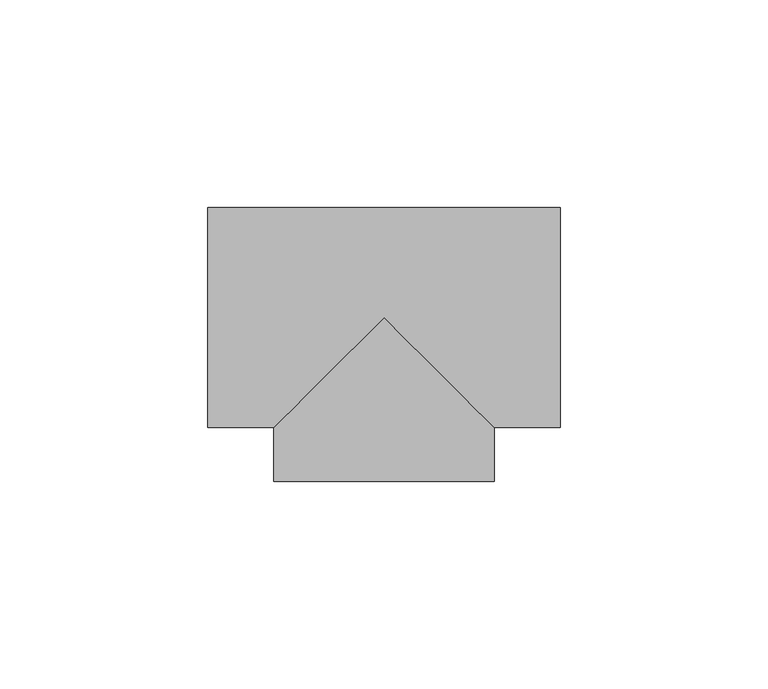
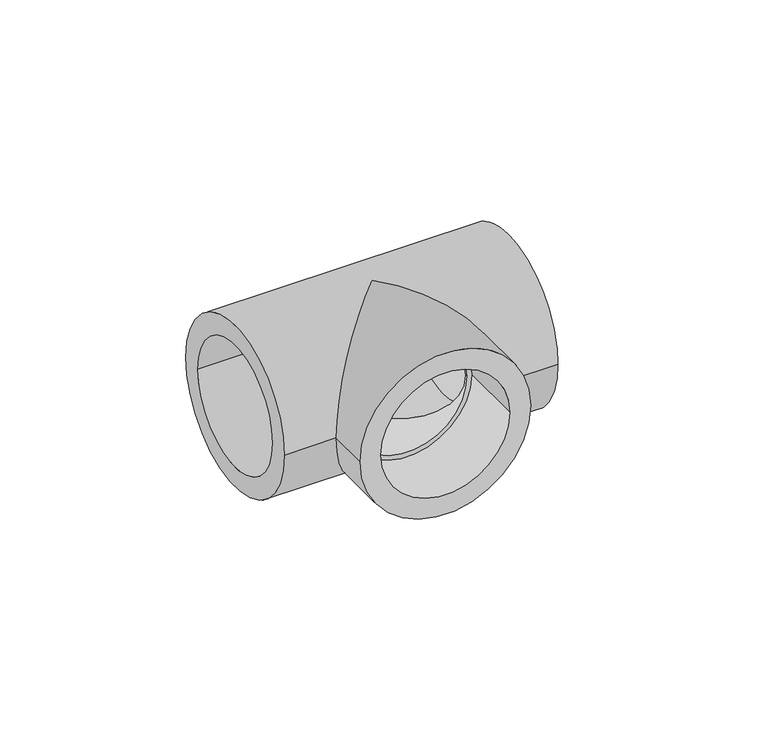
"""IFC4 building model written with IfcOpenShell, lengths in millimetres: pipe fitting geometry, 30_Тройник полипропиленовый : Белый цвет."""

from ifc_helpers import new_model, si_unit, frame, origin, place, context, project, spatial, polyline, circle_curve, ellipse_curve, source, transform, mapped, element, save
from ifc_brep_helpers import plane_surface, cylinder_surface, revolved_surface, advanced_brep


def pipe_fitting_64472920(model_context):
    return source(origin(), model_context, "Body", "AdvancedBrep", [
        advanced_brep(
        [(-42.5, -26.5, 0.0), (-42.5, 26.5, 0.0), (-42.5, -20.0, 0.0), (-42.5, 20.0, 0.0), (42.5, -26.5, 0.0), (42.5, 26.5, 0.0), (42.5, 20.0, 0.0), (42.5, -20.0, 0.0), (-26.5, -26.5, 0.0), (0.0, 0.0, 26.5), (26.5, -26.5, 0.0), (0.0, 0.0, -26.5), (-26.5, -39.5, 0.0), (26.5, -39.5, 0.0), (20.0, -39.5, 0.0), (-20.0, -39.5, 0.0), (-20.0, -19.0, 0.0), (20.0, -19.0, 0.0), (18.5, -19.0, 0.0), (-18.5, -19.0, 0.0), (22.0, -20.0, 0.0), (22.0, 20.0, 0.0), (22.0, 18.5, 0.0), (22.0, -18.5, 0.0), (-22.0, -20.0, 0.0), (-22.0, 20.0, 0.0), (-22.0, -18.5, 0.0), (-22.0, 18.5, 0.0), (-18.5, -18.5, 0.0), (0.0, 0.0, -18.5), (18.5, -18.5, 0.0), (0.0, 0.0, 18.5)],
        [
            (0, 1, circle_curve(frame((-42.5, 0.0, 0.0), z_axis=(-1.0, 0.0, 0.0), x_axis=(0.0, 1.0, 0.0)), 26.5)),
            (1, 0, circle_curve(frame((-42.5, 0.0, 0.0), z_axis=(-1.0, 0.0, 0.0), x_axis=(0.0, 1.0, 0.0)), 26.5)),
            (2, 3, circle_curve(frame((-42.5, 0.0, 0.0), z_axis=(1.0, 0.0, 0.0), x_axis=(0.0, 1.0, 0.0)), 20.0)),
            (3, 2, circle_curve(frame((-42.5, 0.0, 0.0), z_axis=(1.0, 0.0, 0.0), x_axis=(0.0, 1.0, 0.0)), 20.0)),
            (4, 5, circle_curve(frame((42.5, 0.0, 0.0), z_axis=(1.0, 0.0, 0.0), x_axis=(0.0, 1.0, 0.0)), 26.5)),
            (5, 4, circle_curve(frame((42.5, 0.0, 0.0), z_axis=(1.0, 0.0, 0.0), x_axis=(0.0, 1.0, 0.0)), 26.5)),
            (6, 7, circle_curve(frame((42.5, 0.0, 0.0), z_axis=(-1.0, 0.0, 0.0), x_axis=(0.0, 1.0, 0.0)), 20.0)),
            (7, 6, circle_curve(frame((42.5, 0.0, 0.0), z_axis=(-1.0, 0.0, 0.0), x_axis=(0.0, 1.0, 0.0)), 20.0)),
            (0, 8),
            (8, 9, ellipse_curve(frame((0.0, 0.0, 0.0), z_axis=(-0.707106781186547, 0.7071067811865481, 0.0), x_axis=(-0.707106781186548, -0.707106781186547, 0.0)), 37.4766594, 26.5)),
            (9, 10, ellipse_curve(frame((0.0, 0.0, 0.0), z_axis=(0.707106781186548, 0.7071067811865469, 0.0), x_axis=(-0.707106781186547, 0.707106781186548, 0.0)), 37.4766594, 26.5)),
            (10, 4),
            (5, 1),
            (10, 11, ellipse_curve(frame((0.0, 0.0, 0.0), z_axis=(0.707106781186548, 0.7071067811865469, 0.0), x_axis=(-0.707106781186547, 0.707106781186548, 0.0)), 37.4766594, 26.5)),
            (11, 8, ellipse_curve(frame((0.0, 0.0, 0.0), z_axis=(-0.707106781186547, 0.7071067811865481, 0.0), x_axis=(-0.707106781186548, -0.707106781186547, 0.0)), 37.4766594, 26.5)),
            (12, 13, circle_curve(frame((0.0, -39.5, 0.0), z_axis=(0.0, -1.0, 0.0), x_axis=(1.0, 0.0, 0.0)), 26.5)),
            (13, 12, circle_curve(frame((0.0, -39.5, 0.0), z_axis=(0.0, -1.0, 0.0), x_axis=(1.0, 0.0, 0.0)), 26.5)),
            (14, 15, circle_curve(frame((0.0, -39.5, 0.0), z_axis=(0.0, 1.0, 0.0), x_axis=(1.0, 0.0, 0.0)), 20.0)),
            (15, 14, circle_curve(frame((0.0, -39.5, 0.0), z_axis=(0.0, 1.0, 0.0), x_axis=(1.0, 0.0, 0.0)), 20.0)),
            (13, 10),
            (8, 12),
            (16, 17, circle_curve(frame((0.0, -19.0, 0.0), z_axis=(0.0, -1.0, 0.0), x_axis=(1.0, 0.0, 0.0)), 20.0)),
            (17, 16, circle_curve(frame((0.0, -19.0, 0.0), z_axis=(0.0, -1.0, 0.0), x_axis=(1.0, 0.0, 0.0)), 20.0)),
            (18, 19, circle_curve(frame((0.0, -19.0, 0.0), z_axis=(0.0, 1.0, 0.0), x_axis=(1.0, 0.0, 0.0)), 18.5)),
            (19, 18, circle_curve(frame((0.0, -19.0, 0.0), z_axis=(0.0, 1.0, 0.0), x_axis=(1.0, 0.0, 0.0)), 18.5)),
            (16, 15),
            (14, 17),
            (20, 21, circle_curve(frame((22.0, 0.0, 0.0), z_axis=(1.0, 0.0, 0.0), x_axis=(0.0, 1.0, 0.0)), 20.0)),
            (21, 20, circle_curve(frame((22.0, 0.0, 0.0), z_axis=(1.0, 0.0, 0.0), x_axis=(0.0, 1.0, 0.0)), 20.0)),
            (22, 23, circle_curve(frame((22.0, 0.0, 0.0), z_axis=(-1.0, 0.0, 0.0), x_axis=(0.0, 1.0, 0.0)), 18.5)),
            (23, 22, circle_curve(frame((22.0, 0.0, 0.0), z_axis=(-1.0, 0.0, 0.0), x_axis=(0.0, 1.0, 0.0)), 18.5)),
            (20, 7),
            (6, 21),
            (24, 25, circle_curve(frame((-22.0, 0.0, 0.0), z_axis=(-1.0, 0.0, 0.0), x_axis=(0.0, 1.0, 0.0)), 20.0)),
            (25, 24, circle_curve(frame((-22.0, 0.0, 0.0), z_axis=(-1.0, 0.0, 0.0), x_axis=(0.0, 1.0, 0.0)), 20.0)),
            (26, 27, circle_curve(frame((-22.0, 0.0, 0.0), z_axis=(1.0, 0.0, 0.0), x_axis=(0.0, 1.0, 0.0)), 18.5)),
            (27, 26, circle_curve(frame((-22.0, 0.0, 0.0), z_axis=(1.0, 0.0, 0.0), x_axis=(0.0, 1.0, 0.0)), 18.5)),
            (25, 3),
            (2, 24),
            (22, 27),
            (26, 28),
            (28, 29, ellipse_curve(frame((0.0, 0.0, 0.0), z_axis=(0.7071067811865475, -0.7071067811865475, 0.0), x_axis=(0.7071067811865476, 0.7071067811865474, 0.0)), 26.1629509, 18.5)),
            (29, 30, ellipse_curve(frame((0.0, 0.0, 0.0), z_axis=(-0.7071067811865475, -0.7071067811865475, 0.0), x_axis=(0.7071067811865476, -0.7071067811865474, 0.0)), 26.1629509, 18.5)),
            (30, 23),
            (30, 31, ellipse_curve(frame((0.0, 0.0, 0.0), z_axis=(-0.7071067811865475, -0.7071067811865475, 0.0), x_axis=(0.7071067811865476, -0.7071067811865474, 0.0)), 26.1629509, 18.5)),
            (31, 28, ellipse_curve(frame((0.0, 0.0, 0.0), z_axis=(0.7071067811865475, -0.7071067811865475, 0.0), x_axis=(0.7071067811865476, 0.7071067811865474, 0.0)), 26.1629509, 18.5)),
            (18, 30),
            (28, 19),
        ],
        [
            plane_surface(frame((-42.5, 0.0, 0.0), z_axis=(-1.0, 0.0, 0.0), x_axis=(0.0, 0.0, 1.0))),
            plane_surface(frame((42.5, 0.0, 0.0), z_axis=(1.0, 0.0, 0.0), x_axis=(0.0, 0.0, 1.0))),
            cylinder_surface(frame((-42.5, 0.0, 0.0), z_axis=(-1.0, 0.0, 0.0), x_axis=(0.0, 1.0, 0.0)), 26.5),
            plane_surface(frame((0.0, -39.5, 0.0), z_axis=(0.0, -1.0, 0.0), x_axis=(0.0, 0.0, 1.0))),
            cylinder_surface(frame((0.0, 0.0, 0.0), z_axis=(0.0, 1.0, 0.0), x_axis=(1.0, 0.0, 0.0)), 26.5),
            plane_surface(frame((20.0, -19.0, 0.0), z_axis=(0.0, -1.0, 0.0), x_axis=(0.0, 0.0, -1.0))),
            revolved_surface(polyline([(20.0, -39.5, 0.0), (20.0, -19.0, 0.0)]), (0.0, -19.0, 0.0), (0.0, -1.0, 0.0)),
            plane_surface(frame((22.0, 20.0, 0.0), z_axis=(1.0, 0.0, 0.0), x_axis=(0.0, 0.0, -1.0))),
            revolved_surface(polyline([(42.5, 20.0, 0.0), (22.0, 20.0, 0.0)]), (22.0, 0.0, 0.0), (1.0, 0.0, 0.0)),
            plane_surface(frame((-22.0, 20.0, 0.0), z_axis=(-1.0, 0.0, 0.0), x_axis=(0.0, 0.0, 1.0))),
            revolved_surface(polyline([(-42.5, 20.0, 0.0), (-22.0, 20.0, 0.0)]), (-22.0, 0.0, 0.0), (-1.0, 0.0, 0.0)),
            revolved_surface(polyline([(22.0, 18.5, 0.0), (-22.0, 18.5, 0.0)]), (-22.0, 0.0, 0.0), (1.0, 0.0, 0.0)),
            revolved_surface(polyline([(18.5, -19.0, 0.0), (18.5, 18.499999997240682, 0.0)]), (0.0, 0.0, 0.0), (0.0, -1.0, 0.0)),
        ],
        [
            (0, [[1, 2], [3, 4]]),
            (1, [[5, 6], [7, 8]]),
            (2, [[-1, 9, 10, 11, 12, -6, 13]]),
            (2, [[-2, -13, -5, -12, 14, 15, -9]]),
            (3, [[16, 17], [18, 19]]),
            (4, [[-17, 20, -11, -10, 21]]),
            (4, [[-16, -21, -15, -14, -20]]),
            (5, [[22, 23], [24, 25]]),
            (6, [[-22, 26, -18, 27]]),
            (6, [[-23, -27, -19, -26]]),
            (7, [[28, 29], [30, 31]]),
            (8, [[-28, 32, -7, 33]]),
            (8, [[-29, -33, -8, -32]]),
            (9, [[34, 35], [36, 37]]),
            (10, [[-35, 38, -3, 39]]),
            (10, [[-34, -39, -4, -38]]),
            (11, [[40, -36, 41, 42, 43, 44, -30]]),
            (11, [[-40, -31, -44, 45, 46, -41, -37]]),
            (12, [[47, -43, -42, 48, -24]]),
            (12, [[-47, -25, -48, -46, -45]]),
        ],
    ),
    ])


if __name__ == "__main__":
    model = new_model("IFC4")
    model_context = context("Model", 3, world=origin())
    ifc_project = project(units=[si_unit("LENGTHUNIT", "METRE", prefix="MILLI")], contexts=[model_context])
    site = spatial("IfcSite", under=ifc_project)
    building = spatial("IfcBuilding", under=site)
    placement = place(None, origin())
    pipe_fitting_shape = pipe_fitting_64472920(model_context)
    element("IfcPipeFitting", 1, ObjectType="30_Тройник полипропиленовый : Белый цвет", at=placement, inside=building, context=model_context, shape_type="MappedRepresentation", body=[
        mapped(pipe_fitting_shape, transform((0.0, 0.0, 0.0), x_axis=(1.0, 0.0, 0.0), y_axis=(0.0, 1.0, 0.0), z_axis=(0.0, 0.0, 1.0))),
    ])
    save(model, "model.ifc")
